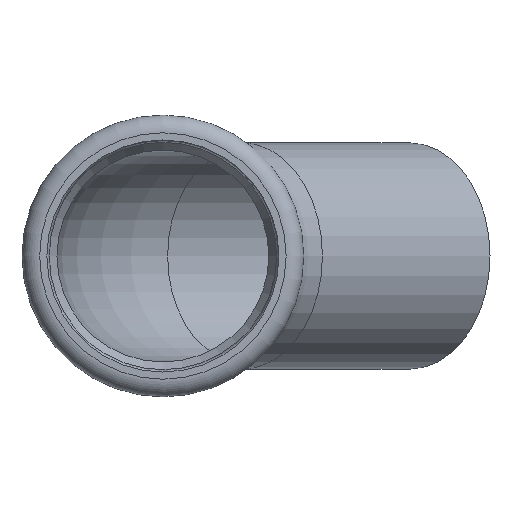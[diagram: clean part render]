
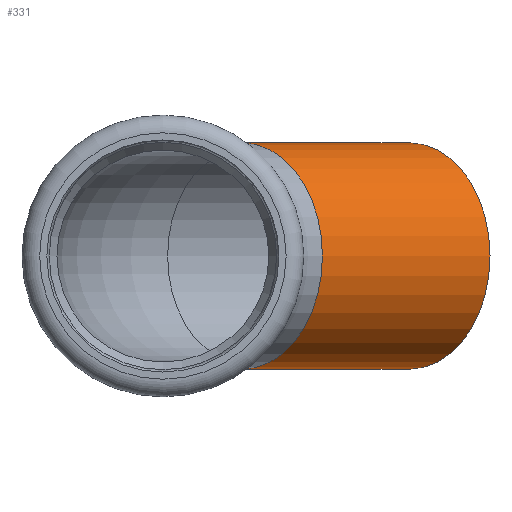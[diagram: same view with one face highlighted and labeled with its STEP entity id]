
A CAD part, left-side view. The second image highlights one B-rep face of the part: STEP entity #331.
In plain terms, the highlighted cylindrical face has radius 32 mm (diameter 64 mm), a full revolution.
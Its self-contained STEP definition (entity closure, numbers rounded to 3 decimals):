
#304=CARTESIAN_POINT('',(54.447,-22.553,0.));
#305=DIRECTION('',(0.707,-0.707,0.));
#306=DIRECTION('',(0.0,0.0,-1.0));
#307=AXIS2_PLACEMENT_3D('',#304,#305,#306);
#308=CYLINDRICAL_SURFACE('',#307,32.);
#309=CARTESIAN_POINT('',(101.894,-70.,32.0));
#310=VERTEX_POINT('',#309);
#311=CARTESIAN_POINT('',(101.894,-70.,0.));
#312=DIRECTION('',(-0.707,0.707,0.0));
#313=DIRECTION('',(0.0,0.0,-1.0));
#314=AXIS2_PLACEMENT_3D('',#311,#312,#313);
#315=CIRCLE('',#314,32.);
#316=EDGE_CURVE('',#310,#310,#315,.T.);
#317=ORIENTED_EDGE('',*,*,#316,.T.);
#318=EDGE_LOOP('',(#317));
#319=FACE_OUTER_BOUND('',#318,.T.);
#320=CARTESIAN_POINT('',(54.447,-22.553,-32.));
#321=VERTEX_POINT('',#320);
#322=CARTESIAN_POINT('',(54.447,-22.553,0.));
#323=DIRECTION('',(-0.707,0.707,0.0));
#324=DIRECTION('',(0.0,0.0,1.0));
#325=AXIS2_PLACEMENT_3D('',#322,#323,#324);
#326=CIRCLE('',#325,32.);
#327=EDGE_CURVE('',#321,#321,#326,.T.);
#328=ORIENTED_EDGE('',*,*,#327,.F.);
#329=EDGE_LOOP('',(#328));
#330=FACE_BOUND('',#329,.T.);
#331=ADVANCED_FACE('',(#319,#330),#308,.T.);
